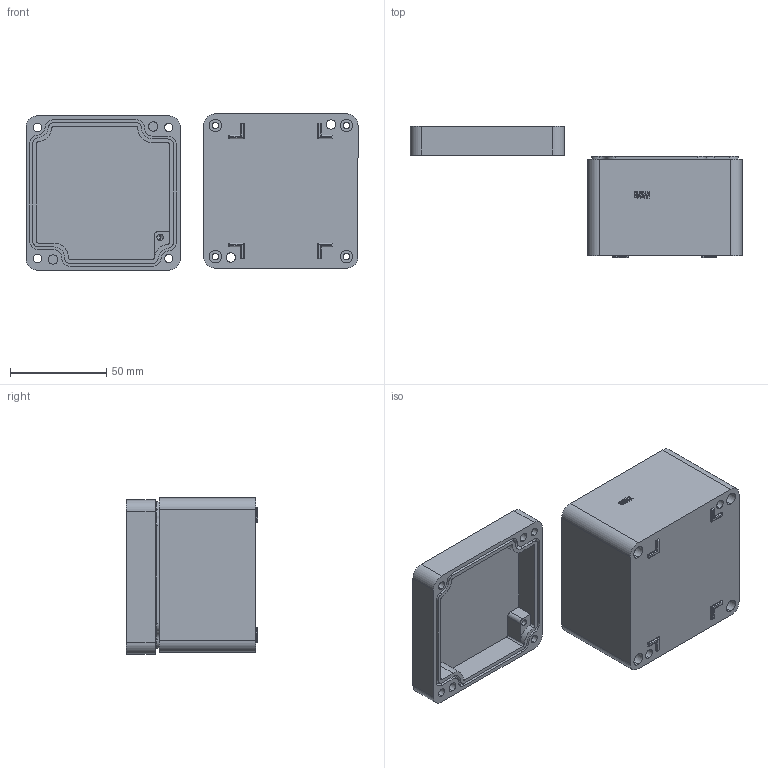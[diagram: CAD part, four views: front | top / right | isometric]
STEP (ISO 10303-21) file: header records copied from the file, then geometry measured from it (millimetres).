
FILE_DESCRIPTION (( 'STEP AP203' ), '1' );
FILE_NAME ('ZX-AL-080806_装配体.STEP', '2022-01-24T07:49:24', ( '微软用户' ), ( '微软中国' ), 'SwSTEP 2.0', 'SolidWorks 2020', '' );
FILE_SCHEMA (( 'CONFIG_CONTROL_DESIGN' ));
Length unit declared in the file: millimetre
Products named in the file (3): ZX-AL-080806_狟; ZX-AL-080806_奻; ZX-AL-080806_蚾饜极
Assembly tree (2 placements, depth 2):
  ZX-AL-080806_蚾饜极
    ZX-AL-080806_狟
    ZX-AL-080806_奻
Bounding box: 172.17 x 68.06 x 81.01 mm (x, y, z)
Volume: 120984.8 mm3; surface area: 71690.4 mm2
Topology: 2 solids, 2 shells, 648 faces, 1756 edges, 1144 vertices
Faces by surface type: plane 325, cylinder 166, bspline 123, cone 34
Entity records: 26139 total; most frequent: CARTESIAN_POINT 10190, ORIENTED_EDGE 3484, DIRECTION 2838, EDGE_CURVE 1742, VECTOR 1166, LINE 1166, VERTEX_POINT 1144, AXIS2_PLACEMENT_3D 836
